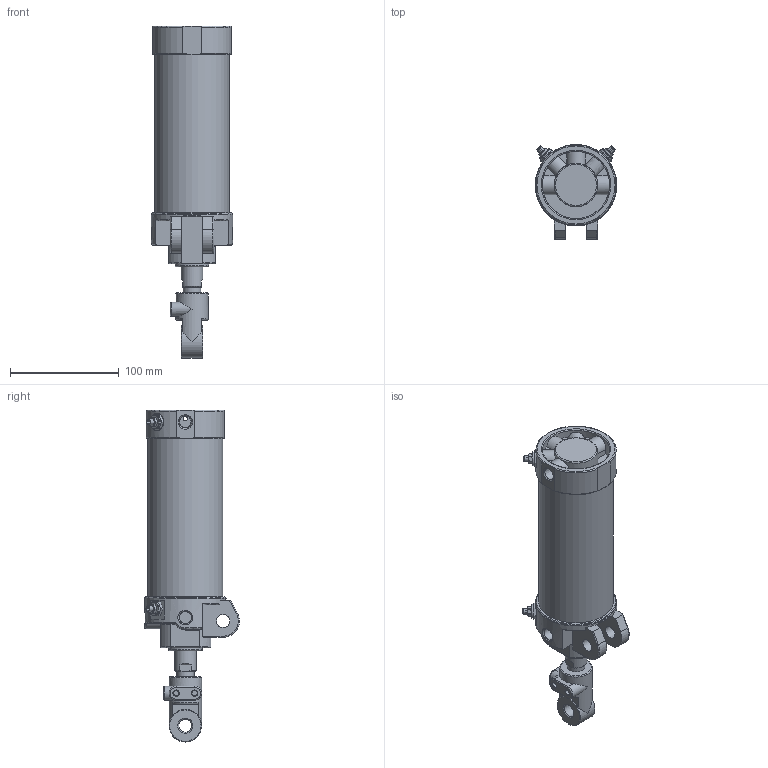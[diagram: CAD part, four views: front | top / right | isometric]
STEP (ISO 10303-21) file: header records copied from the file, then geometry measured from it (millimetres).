
FILE_DESCRIPTION((''),'2;1');
FILE_NAME('I:\3D電子目錄\氣缸\DCK\DCK\DCK-1B-63x100-I.stp','2008-02-26T15:28:20',('Administrator'),(''),'Autodesk Inventor 11','Autodesk Inventor 11','');
FILE_SCHEMA(('AUTOMOTIVE_DESIGN { 1 0 10303 214 1 1 1 1 }'));
Length unit declared in the file: millimetre
Products named in the file (6): DCK-1B-63-I; 緩衝針; 緩衝針-1; 緩衝針-201; 緩衝針-3
Assembly tree (8 placements, depth 3):
  DCK-1B-63-I
    DCK-1B-63-I
    緩衝針  x4
      緩衝針-1
      緩衝針-201
      緩衝針-3
Bounding box: 75 x 87.29 x 306 mm (x, y, z)
Volume: 372992 mm3; surface area: 143608 mm2
Topology: 17 solids, 17 shells, 639 faces, 1407 edges, 875 vertices
Faces by surface type: plane 233, cylinder 179, cone 139, torus 49, bspline 39
Full cylindrical faces by diameter (mm): 2 x1, 3 x2, 3.8 x2, 4 x6, 4.6 x4, 5 x8, 5.1 x4, 5.2 x12, 5.5 x4, 7 x1, 7.25 x1, 7.9 x4, 8 x2, 11.3 x3, 12 x3, 12.8 x4, 16 x3, 20 x1, 21 x1, 22 x2, 23 x1, 24.7 x1, 26 x1, 27 x1, 28 x1, 29 x1, 30 x2, 31 x1, 33 x1, 62 x1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
Entity records: 13902 total; most frequent: CARTESIAN_POINT 5736, DIRECTION 1661, ORIENTED_EDGE 1492, EDGE_CURVE 746, AXIS2_PLACEMENT_3D 726, EDGE_LOOP 584, VERTEX_POINT 538, FACE_OUTER_BOUND 390
